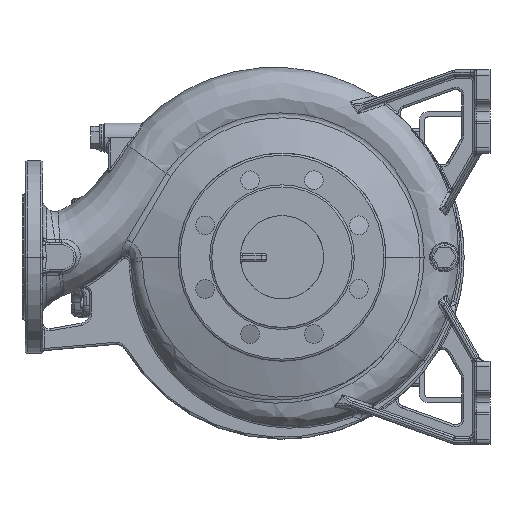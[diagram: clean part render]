
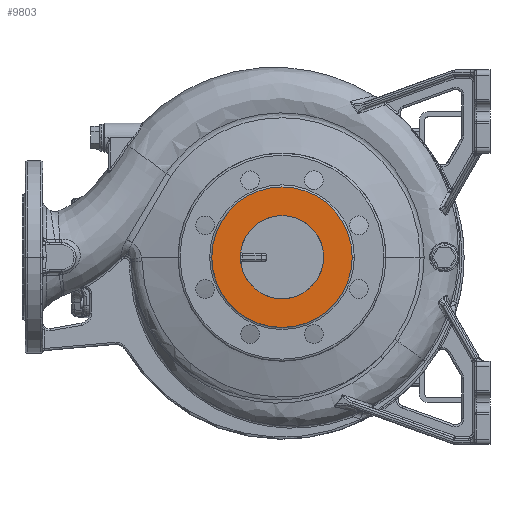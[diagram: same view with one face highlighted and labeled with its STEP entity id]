
A CAD part, front view. The second image highlights one B-rep face of the part: STEP entity #9803.
In plain terms, the highlighted planar face has unit normal (0, -1, 0).
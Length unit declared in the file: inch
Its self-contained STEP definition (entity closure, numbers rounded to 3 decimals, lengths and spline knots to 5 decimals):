
#9803 = ADVANCED_FACE ( 'NONE', ( #80543, #16157 ), #17760, .F. ) ;
#14362 = AXIS2_PLACEMENT_3D ( 'NONE', #127443, #67038, #102128 ) ;
#14952 = AXIS2_PLACEMENT_3D ( 'NONE', #35168, #146951, #124901 ) ;
#15456 = DIRECTION ( 'NONE',  ( -1., 0., 0. ) ) ;
#16157 = FACE_BOUND ( 'NONE', #158320, .T. ) ;
#17760 = PLANE ( 'NONE',  #88864 ) ;
#22048 = VERTEX_POINT ( 'NONE', #99714 ) ;
#22709 = AXIS2_PLACEMENT_3D ( 'NONE', #103711, #64581, #29412 ) ;
#29412 = DIRECTION ( 'NONE',  ( -1., 0., 0. ) ) ;
#30130 = CIRCLE ( 'NONE', #22709, 1.5748 ) ;
#31123 = VERTEX_POINT ( 'NONE', #52059 ) ;
#35168 = CARTESIAN_POINT ( 'NONE',  ( 0., -10.82677, 0. ) ) ;
#47530 = ORIENTED_EDGE ( 'NONE', *, *, #67664, .T. ) ;
#52059 = CARTESIAN_POINT ( 'NONE',  ( -1.5748, -10.82677, 0. ) ) ;
#56138 = AXIS2_PLACEMENT_3D ( 'NONE', #88890, #77452, #15456 ) ;
#64581 = DIRECTION ( 'NONE',  ( 0., -1., 0. ) ) ;
#65918 = DIRECTION ( 'NONE',  ( 0., 1., 0. ) ) ;
#67038 = DIRECTION ( 'NONE',  ( 0., -1., 0. ) ) ;
#67523 = DIRECTION ( 'NONE',  ( 1., 0., 0. ) ) ;
#67664 = EDGE_CURVE ( 'NONE', #71434, #22048, #84692, .T. ) ;
#71434 = VERTEX_POINT ( 'NONE', #85179 ) ;
#75164 = CIRCLE ( 'NONE', #14952, 2.65748 ) ;
#77452 = DIRECTION ( 'NONE',  ( 0., 1., 0. ) ) ;
#79773 = VERTEX_POINT ( 'NONE', #88546 ) ;
#80543 = FACE_OUTER_BOUND ( 'NONE', #108544, .T. ) ;
#82507 = ORIENTED_EDGE ( 'NONE', *, *, #103884, .F. ) ;
#83647 = EDGE_CURVE ( 'NONE', #71434, #22048, #75164, .T. ) ;
#84692 = CIRCLE ( 'NONE', #14362, 2.65748 ) ;
#85179 = CARTESIAN_POINT ( 'NONE',  ( -2.65748, -10.82677, 0. ) ) ;
#88546 = CARTESIAN_POINT ( 'NONE',  ( 1.5748, -10.82677, 0. ) ) ;
#88864 = AXIS2_PLACEMENT_3D ( 'NONE', #105030, #65918, #67523 ) ;
#88890 = CARTESIAN_POINT ( 'NONE',  ( 0., -10.82677, 0. ) ) ;
#99714 = CARTESIAN_POINT ( 'NONE',  ( 2.65748, -10.82677, 0. ) ) ;
#102128 = DIRECTION ( 'NONE',  ( -1., 0., 0. ) ) ;
#103711 = CARTESIAN_POINT ( 'NONE',  ( 0., -10.82677, 0. ) ) ;
#103884 = EDGE_CURVE ( 'NONE', #31123, #79773, #30130, .T. ) ;
#105030 = CARTESIAN_POINT ( 'NONE',  ( 0., -10.82677, 0. ) ) ;
#108544 = EDGE_LOOP ( 'NONE', ( #137716, #47530 ) ) ;
#117142 = ORIENTED_EDGE ( 'NONE', *, *, #134628, .T. ) ;
#121256 = CIRCLE ( 'NONE', #56138, 1.5748 ) ;
#124901 = DIRECTION ( 'NONE',  ( -1., 0., 0. ) ) ;
#127443 = CARTESIAN_POINT ( 'NONE',  ( 0., -10.82677, 0. ) ) ;
#134628 = EDGE_CURVE ( 'NONE', #31123, #79773, #121256, .T. ) ;
#137716 = ORIENTED_EDGE ( 'NONE', *, *, #83647, .F. ) ;
#146951 = DIRECTION ( 'NONE',  ( 0., 1., 0. ) ) ;
#158320 = EDGE_LOOP ( 'NONE', ( #82507, #117142 ) ) ;
